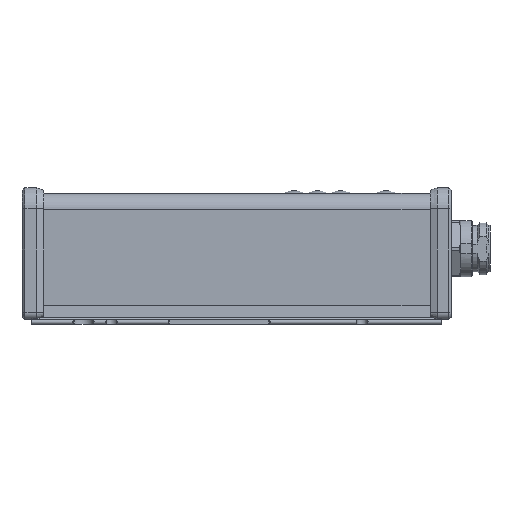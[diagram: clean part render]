
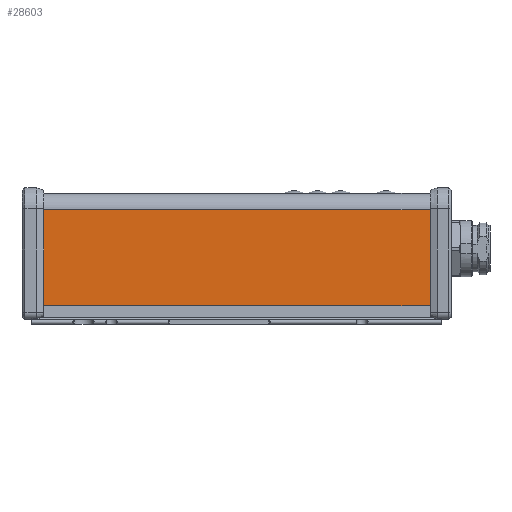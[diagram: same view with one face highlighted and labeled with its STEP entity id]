
A CAD part, left-side view. The second image highlights one B-rep face of the part: STEP entity #28603.
In plain terms, the highlighted planar face has unit normal (-1, 0, 0).
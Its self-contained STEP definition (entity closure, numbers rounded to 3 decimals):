
#204=PLANE('',#30264);
#887=LINE('',#40732,#2366);
#892=LINE('',#40749,#2371);
#910=LINE('',#40812,#2389);
#1146=LINE('',#41589,#2625);
#2366=VECTOR('',#33347,1000.);
#2371=VECTOR('',#33362,1000.);
#2389=VECTOR('',#33402,1000.);
#2625=VECTOR('',#34128,1000.);
#6991=ORIENTED_EDGE('',*,*,#12280,.T.);
#6992=ORIENTED_EDGE('',*,*,#12721,.F.);
#6993=ORIENTED_EDGE('',*,*,#12287,.F.);
#6994=ORIENTED_EDGE('',*,*,#12316,.T.);
#12280=EDGE_CURVE('',#15152,#15174,#887,.T.);
#12287=EDGE_CURVE('',#15181,#15182,#892,.T.);
#12316=EDGE_CURVE('',#15181,#15152,#910,.T.);
#12721=EDGE_CURVE('',#15182,#15174,#1146,.T.);
#15152=VERTEX_POINT('',#40686);
#15174=VERTEX_POINT('',#40731);
#15181=VERTEX_POINT('',#40748);
#15182=VERTEX_POINT('',#40750);
#17070=EDGE_LOOP('',(#6991,#6992,#6993,#6994));
#18552=FACE_BOUND('',#17070,.T.);
#28603=ADVANCED_FACE('',(#18552),#204,.F.);
#30264=AXIS2_PLACEMENT_3D('',#41588,#34126,#34127);
#33347=DIRECTION('',(0.,0.,1.));
#33362=DIRECTION('',(0.,0.,1.));
#33402=DIRECTION('',(0.,-1.,0.));
#34126=DIRECTION('',(1.,0.,0.));
#34127=DIRECTION('',(0.,0.,-1.));
#34128=DIRECTION('',(0.,-1.,0.));
#40686=CARTESIAN_POINT('',(-78.32,9.,5.5));
#40731=CARTESIAN_POINT('',(-78.32,9.,46.48));
#40732=CARTESIAN_POINT('',(-78.32,9.,5.5));
#40748=CARTESIAN_POINT('',(-78.32,174.,5.5));
#40749=CARTESIAN_POINT('',(-78.32,174.,5.5));
#40750=CARTESIAN_POINT('',(-78.32,174.,46.48));
#40812=CARTESIAN_POINT('',(-78.32,174.,5.5));
#41588=CARTESIAN_POINT('',(-78.32,174.,5.5));
#41589=CARTESIAN_POINT('',(-78.32,174.,46.48));
